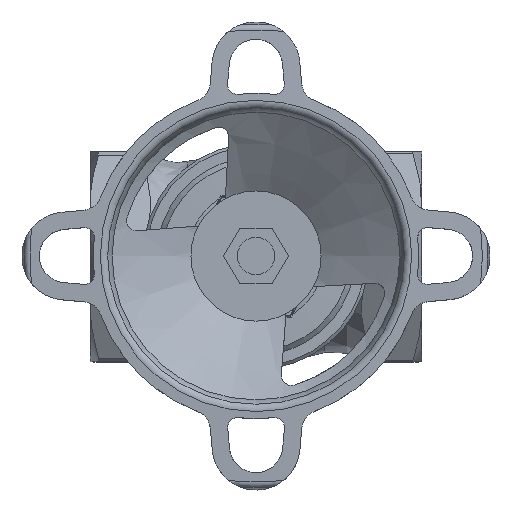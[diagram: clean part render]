
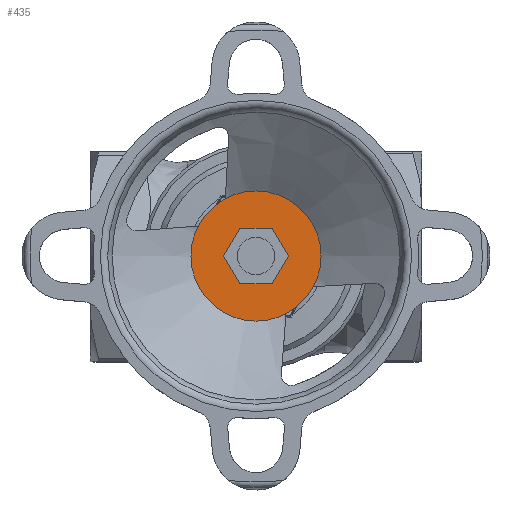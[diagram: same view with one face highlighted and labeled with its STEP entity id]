
A CAD part, top view. The second image highlights one B-rep face of the part: STEP entity #435.
In plain terms, the highlighted planar face has unit normal (0, 0, 1).
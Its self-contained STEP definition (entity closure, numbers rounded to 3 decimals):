
#132=CARTESIAN_POINT('',(24.152,-4.5,76.7));
#133=VERTEX_POINT('',#132);
#140=CARTESIAN_POINT('',(29.348,-4.5,76.7));
#141=VERTEX_POINT('',#140);
#142=CARTESIAN_POINT('',(29.348,-4.5,76.7));
#143=DIRECTION('',(-1.0,0.0,0.0));
#144=VECTOR('',#143,5.196);
#145=LINE('',#142,#144);
#146=EDGE_CURVE('',#141,#133,#145,.T.);
#170=CARTESIAN_POINT('',(21.554,0.,76.7));
#171=VERTEX_POINT('',#170);
#178=CARTESIAN_POINT('',(24.152,-4.5,76.7));
#179=DIRECTION('',(-0.5,0.866,0.0));
#180=VECTOR('',#179,5.196);
#181=LINE('',#178,#180);
#182=EDGE_CURVE('',#133,#171,#181,.T.);
#201=CARTESIAN_POINT('',(24.152,4.5,76.7));
#202=VERTEX_POINT('',#201);
#209=CARTESIAN_POINT('',(21.554,0.,76.7));
#210=DIRECTION('',(0.5,0.866,0.0));
#211=VECTOR('',#210,5.196);
#212=LINE('',#209,#211);
#213=EDGE_CURVE('',#171,#202,#212,.T.);
#232=CARTESIAN_POINT('',(29.348,4.5,76.7));
#233=VERTEX_POINT('',#232);
#240=CARTESIAN_POINT('',(24.152,4.5,76.7));
#241=DIRECTION('',(1.0,0.0,0.0));
#242=VECTOR('',#241,5.196);
#243=LINE('',#240,#242);
#244=EDGE_CURVE('',#202,#233,#243,.T.);
#263=CARTESIAN_POINT('',(31.946,0.,76.7));
#264=VERTEX_POINT('',#263);
#271=CARTESIAN_POINT('',(29.348,4.5,76.7));
#272=DIRECTION('',(0.5,-0.866,0.0));
#273=VECTOR('',#272,5.196);
#274=LINE('',#271,#273);
#275=EDGE_CURVE('',#233,#264,#274,.T.);
#293=CARTESIAN_POINT('',(31.946,0.,76.7));
#294=DIRECTION('',(-0.5,-0.866,0.0));
#295=VECTOR('',#294,5.196);
#296=LINE('',#293,#295);
#297=EDGE_CURVE('',#264,#141,#296,.T.);
#404=CARTESIAN_POINT('',(37.25,0.,76.7));
#405=VERTEX_POINT('',#404);
#406=CARTESIAN_POINT('',(26.75,0.,76.7));
#407=DIRECTION('',(0.0,0.0,-1.0));
#408=DIRECTION('',(-1.0,0.0,0.0));
#409=AXIS2_PLACEMENT_3D('',#406,#407,#408);
#410=CIRCLE('',#409,10.5);
#411=EDGE_CURVE('',#405,#405,#410,.T.);
#419=CARTESIAN_POINT('',(26.75,0.,76.7));
#420=DIRECTION('',(0.0,0.0,-1.0));
#421=DIRECTION('',(-1.0,0.0,0.0));
#422=AXIS2_PLACEMENT_3D('',#419,#420,#421);
#423=PLANE('',#422);
#424=ORIENTED_EDGE('',*,*,#411,.F.);
#425=EDGE_LOOP('',(#424));
#426=FACE_OUTER_BOUND('',#425,.T.);
#427=ORIENTED_EDGE('',*,*,#146,.T.);
#428=ORIENTED_EDGE('',*,*,#182,.T.);
#429=ORIENTED_EDGE('',*,*,#213,.T.);
#430=ORIENTED_EDGE('',*,*,#244,.T.);
#431=ORIENTED_EDGE('',*,*,#275,.T.);
#432=ORIENTED_EDGE('',*,*,#297,.T.);
#433=EDGE_LOOP('',(#427,#428,#429,#430,#431,#432));
#434=FACE_BOUND('',#433,.T.);
#435=ADVANCED_FACE('',(#426,#434),#423,.F.);
